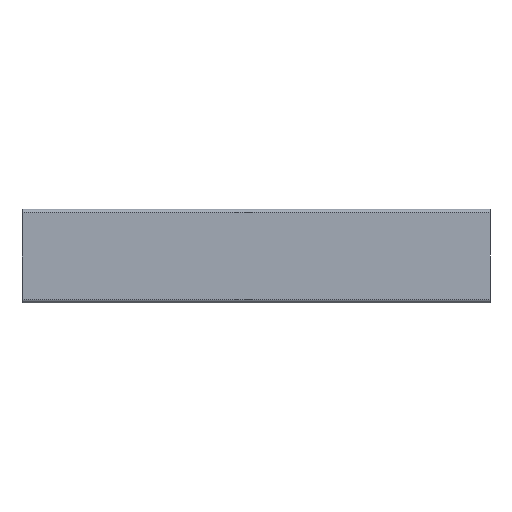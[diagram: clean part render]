
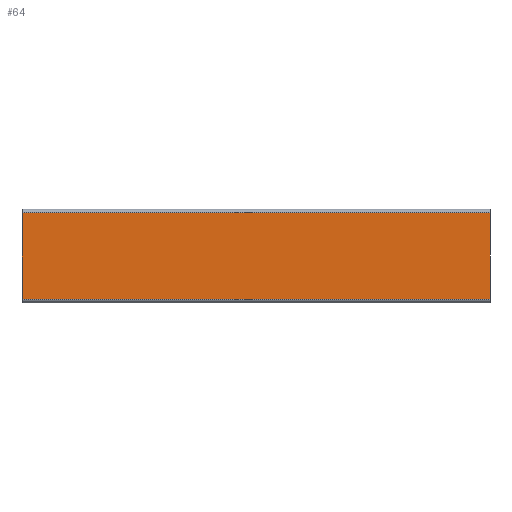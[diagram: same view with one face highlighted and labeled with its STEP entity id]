
A CAD part, front view. The second image highlights one B-rep face of the part: STEP entity #64.
In plain terms, the highlighted planar face has unit normal (0, -1, 0).
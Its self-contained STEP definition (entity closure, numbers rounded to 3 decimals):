
#64=ADVANCED_FACE('',(#242),#244,.T.);
#242=FACE_BOUND('',#243,.T.);
#243=EDGE_LOOP('',(#458,#459,#460,#461));
#244=PLANE('',#245);
#245=AXIS2_PLACEMENT_3D('',#246,#247,#248);
#246=CARTESIAN_POINT('',(-500.,-50.,46.));
#247=DIRECTION('',(0.,-1.,0.));
#248=DIRECTION('',(0.,0.,-1.));
#458=ORIENTED_EDGE('',*,*,#548,.T.);
#459=ORIENTED_EDGE('',*,*,#568,.T.);
#460=ORIENTED_EDGE('',*,*,#530,.F.);
#461=ORIENTED_EDGE('',*,*,#567,.F.);
#530=EDGE_CURVE('',#623,#625,#626,.T.);
#548=EDGE_CURVE('',#657,#655,#658,.T.);
#567=EDGE_CURVE('',#657,#623,#689,.T.);
#568=EDGE_CURVE('',#655,#625,#690,.T.);
#623=VERTEX_POINT('',#805);
#625=VERTEX_POINT('',#810);
#626=LINE('',#811,#812);
#655=VERTEX_POINT('',#884);
#657=VERTEX_POINT('',#889);
#658=LINE('',#890,#891);
#689=LINE('',#969,#970);
#690=LINE('',#972,#973);
#805=CARTESIAN_POINT('',(0.,-50.,46.));
#810=CARTESIAN_POINT('',(0.,-50.,-46.));
#811=CARTESIAN_POINT('',(0.,-50.,46.));
#812=VECTOR('',#813,1.);
#813=DIRECTION('',(0.,0.,-1.));
#884=CARTESIAN_POINT('',(-500.,-50.,-46.));
#889=CARTESIAN_POINT('',(-500.,-50.,46.));
#890=CARTESIAN_POINT('',(-500.,-50.,46.));
#891=VECTOR('',#892,1.);
#892=DIRECTION('',(0.,0.,-1.));
#969=CARTESIAN_POINT('',(-500.,-50.,46.));
#970=VECTOR('',#971,1.);
#971=DIRECTION('',(1.,0.,0.));
#972=CARTESIAN_POINT('',(-500.,-50.,-46.));
#973=VECTOR('',#974,1.);
#974=DIRECTION('',(1.,0.,0.));
